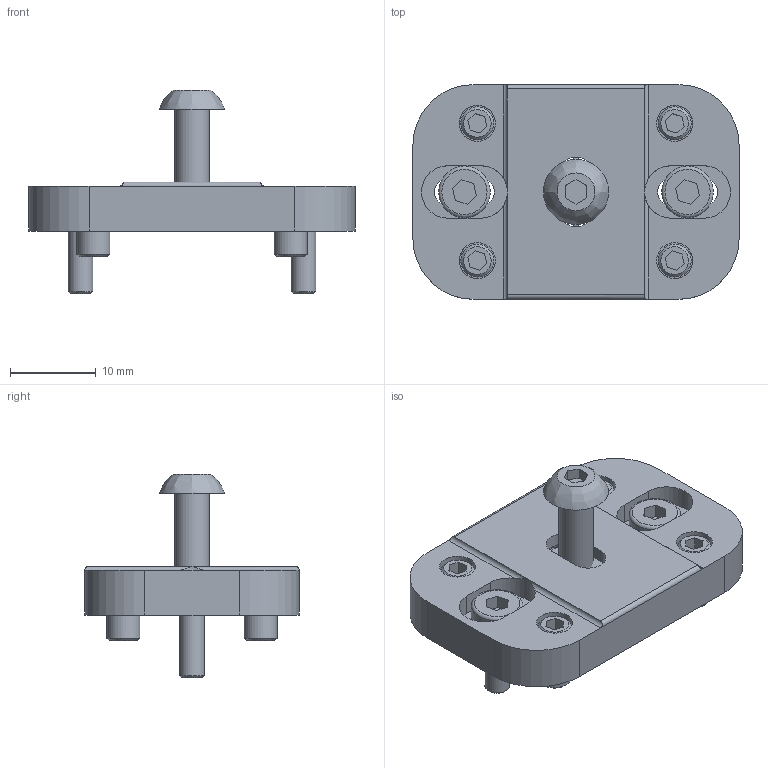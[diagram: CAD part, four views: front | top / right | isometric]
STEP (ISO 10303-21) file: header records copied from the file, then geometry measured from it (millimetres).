
FILE_DESCRIPTION(/* description */ (''),/* implementation_level */ '2;1');
FILE_NAME(/* name */ 'ST1487867_01_v2_h57.stp',/* time_stamp */ '2021-11-29T10:34:57+01:00',/* author */ (''),/* organization */ (''),/* preprocessor_version */ 'ST-DEVELOPER v18.1',/* originating_system */ 'SIEMENS PLM Software NX 1992',/* authorisation */ '');
FILE_SCHEMA (('AUTOMOTIVE_DESIGN { 1 0 10303 214 3 1 1 1 }'));
Length unit declared in the file: millimetre
Products named in the file (5): 2106_VTC3x10ribassata; 2106_GRP4x8; 2106_DEM4basso; 2106_VTB4X14; ST1487867_01_v2_h57
Assembly tree (12 placements, depth 2):
  ST1487867_01_v2_h57
    2106_VTB4X14
    2106_DEM4basso  x5
    2106_GRP4x8  x4
    2106_VTC3x10ribassata  x2
Bounding box: 38 x 25 x 23.7 mm (x, y, z)
Volume: 4477 mm3; surface area: 6092.9 mm2
Topology: 13 solids, 13 shells, 375 faces, 978 edges, 652 vertices
Faces by surface type: plane 195, cylinder 106, cone 71, torus 2, bspline 1
Full cylindrical faces by diameter (mm): 2.874 x2, 3.432 x5, 3.838 x4, 4 x1, 4.2 x4, 6 x2
Entity records: 8665 total; most frequent: CARTESIAN_POINT 1747, DIRECTION 1282, ORIENTED_EDGE 1254, EDGE_CURVE 627, AXIS2_PLACEMENT_3D 452, VERTEX_POINT 429, LINE 378, VECTOR 378
